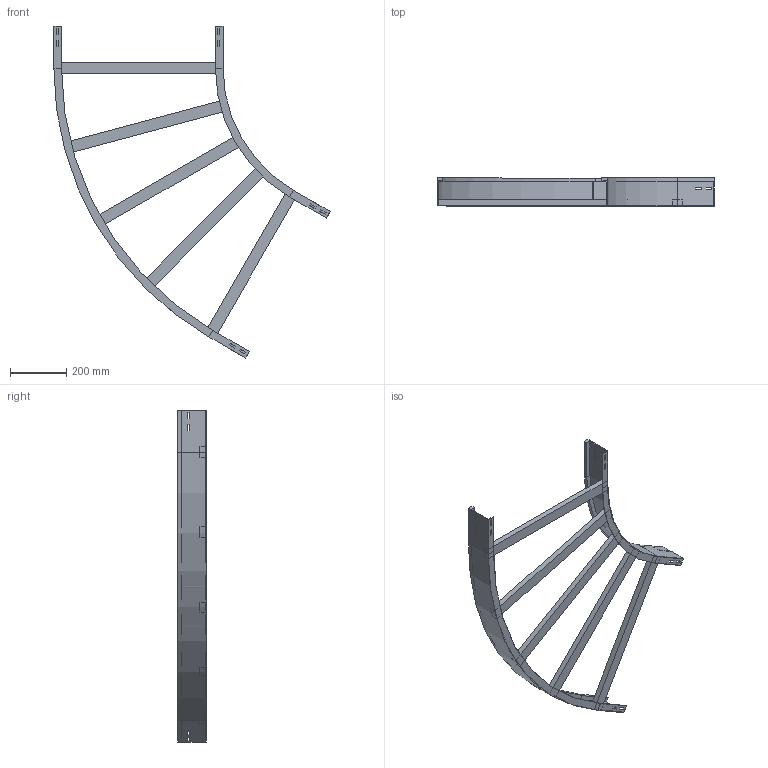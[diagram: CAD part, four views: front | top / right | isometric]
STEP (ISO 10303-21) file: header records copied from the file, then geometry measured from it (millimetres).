
FILE_DESCRIPTION (( 'STEP AP214' ), '1' );
FILE_NAME ('13B5D600.step', '2025-02-21T15:17:18', ( '' ), ( '' ), 'SwSTEP 2.0', 'SolidWorks 2023', '' );
FILE_SCHEMA (( 'AUTOMOTIVE_DESIGN' ));
Length unit declared in the file: millimetre
Products named in the file (4): A2_LONGH.ESTERNO 60°_H100_R500+600; TRAVERSINO_600; 13B5D600; A2_LONGH.INTERNO 60°_H100_R500
Assembly tree (7 placements, depth 2):
  13B5D600
    A2_LONGH.INTERNO 60°_H100_R500
    A2_LONGH.ESTERNO 60°_H100_R500+600
    TRAVERSINO_600  x5
Bounding box: 979.9 x 100 x 1177.63 mm (x, y, z)
Volume: 3414650.1 mm3; surface area: 1018173.6 mm2
Topology: 7 solids, 7 shells, 146 faces, 364 edges, 232 vertices
Faces by surface type: plane 138, cylinder 8
Entity records: 3837 total; most frequent: CARTESIAN_POINT 648, ORIENTED_EDGE 632, DIRECTION 596, EDGE_CURVE 316, LINE 300, VECTOR 300, VERTEX_POINT 200, EDGE_LOOP 154
